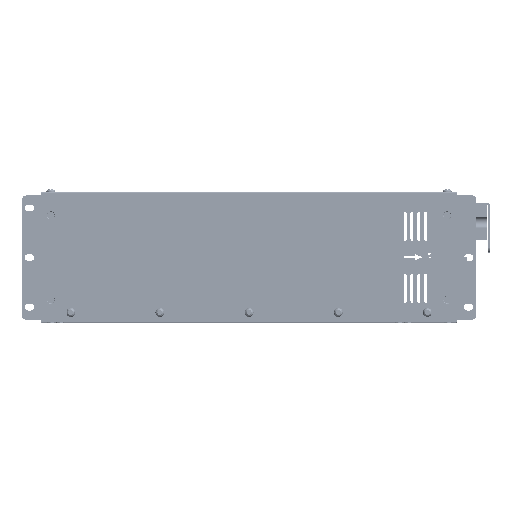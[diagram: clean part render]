
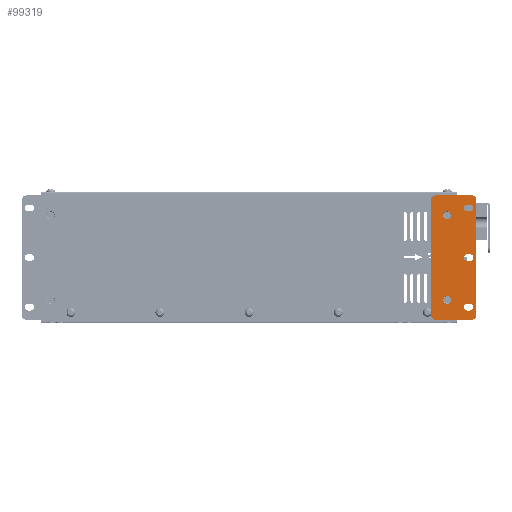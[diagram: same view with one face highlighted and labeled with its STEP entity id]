
A CAD part, top view. The second image highlights one B-rep face of the part: STEP entity #99319.
In plain terms, the highlighted planar face has unit normal (0, 0, 1) as drawn and (0, 1, 0) by its records, which use the part's own axes.
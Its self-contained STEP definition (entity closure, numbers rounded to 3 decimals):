
#5309=FACE_BOUND('',#21420,.T.);
#5310=FACE_BOUND('',#21421,.T.);
#5311=FACE_BOUND('',#21422,.T.);
#5312=FACE_BOUND('',#21423,.T.);
#5313=FACE_BOUND('',#21424,.T.);
#9914=PLANE('',#106781);
#15190=FACE_OUTER_BOUND('',#21419,.T.);
#21419=EDGE_LOOP('',(#92966,#92967,#92968,#92969,#92970,#92971,#92972,#92973));
#21420=EDGE_LOOP('',(#92974));
#21421=EDGE_LOOP('',(#92975));
#21422=EDGE_LOOP('',(#92976,#92977,#92978,#92979));
#21423=EDGE_LOOP('',(#92980,#92981,#92982,#92983));
#21424=EDGE_LOOP('',(#92984,#92985,#92986,#92987));
#30709=LINE('',#183022,#40037);
#30713=LINE('',#183033,#40041);
#30717=LINE('',#183046,#40045);
#30721=LINE('',#183057,#40049);
#30725=LINE('',#183070,#40053);
#30729=LINE('',#183081,#40057);
#30733=LINE('',#183094,#40061);
#30737=LINE('',#183106,#40065);
#30741=LINE('',#183118,#40069);
#30745=LINE('',#183129,#40073);
#40037=VECTOR('',#128862,10.);
#40041=VECTOR('',#128874,10.);
#40045=VECTOR('',#128886,10.);
#40049=VECTOR('',#128898,10.);
#40053=VECTOR('',#128910,10.);
#40057=VECTOR('',#128922,10.);
#40061=VECTOR('',#128934,10.);
#40065=VECTOR('',#128946,10.);
#40069=VECTOR('',#128958,10.);
#40073=VECTOR('',#128970,10.);
#42166=CIRCLE('',#106730,4.);
#42169=CIRCLE('',#106734,4.);
#42174=CIRCLE('',#106742,3.3);
#42176=CIRCLE('',#106746,3.3);
#42178=CIRCLE('',#106750,3.3);
#42180=CIRCLE('',#106754,3.3);
#42182=CIRCLE('',#106758,3.3);
#42184=CIRCLE('',#106762,3.3);
#42186=CIRCLE('',#106766,4.);
#42188=CIRCLE('',#106770,4.);
#42190=CIRCLE('',#106774,4.);
#42192=CIRCLE('',#106778,4.);
#51277=VERTEX_POINT('',#182988);
#51280=VERTEX_POINT('',#182996);
#51285=VERTEX_POINT('',#183012);
#51286=VERTEX_POINT('',#183013);
#51289=VERTEX_POINT('',#183021);
#51291=VERTEX_POINT('',#183027);
#51293=VERTEX_POINT('',#183036);
#51294=VERTEX_POINT('',#183037);
#51297=VERTEX_POINT('',#183045);
#51299=VERTEX_POINT('',#183051);
#51301=VERTEX_POINT('',#183060);
#51302=VERTEX_POINT('',#183061);
#51305=VERTEX_POINT('',#183069);
#51307=VERTEX_POINT('',#183075);
#51309=VERTEX_POINT('',#183084);
#51310=VERTEX_POINT('',#183085);
#51313=VERTEX_POINT('',#183093);
#51315=VERTEX_POINT('',#183099);
#51317=VERTEX_POINT('',#183105);
#51319=VERTEX_POINT('',#183111);
#51321=VERTEX_POINT('',#183117);
#51323=VERTEX_POINT('',#183123);
#65154=EDGE_CURVE('',#51277,#51277,#42166,.T.);
#65158=EDGE_CURVE('',#51280,#51280,#42169,.T.);
#65166=EDGE_CURVE('',#51285,#51286,#42174,.T.);
#65170=EDGE_CURVE('',#51286,#51289,#30709,.T.);
#65173=EDGE_CURVE('',#51289,#51291,#42176,.T.);
#65176=EDGE_CURVE('',#51291,#51285,#30713,.T.);
#65178=EDGE_CURVE('',#51293,#51294,#42178,.T.);
#65182=EDGE_CURVE('',#51294,#51297,#30717,.T.);
#65185=EDGE_CURVE('',#51297,#51299,#42180,.T.);
#65188=EDGE_CURVE('',#51299,#51293,#30721,.T.);
#65190=EDGE_CURVE('',#51301,#51302,#42182,.T.);
#65194=EDGE_CURVE('',#51302,#51305,#30725,.T.);
#65197=EDGE_CURVE('',#51305,#51307,#42184,.T.);
#65200=EDGE_CURVE('',#51307,#51301,#30729,.T.);
#65202=EDGE_CURVE('',#51309,#51310,#42186,.T.);
#65206=EDGE_CURVE('',#51310,#51313,#30733,.T.);
#65209=EDGE_CURVE('',#51313,#51315,#42188,.T.);
#65212=EDGE_CURVE('',#51315,#51317,#30737,.T.);
#65215=EDGE_CURVE('',#51317,#51319,#42190,.T.);
#65218=EDGE_CURVE('',#51319,#51321,#30741,.T.);
#65221=EDGE_CURVE('',#51321,#51323,#42192,.T.);
#65224=EDGE_CURVE('',#51323,#51309,#30745,.T.);
#92966=ORIENTED_EDGE('',*,*,#65224,.T.);
#92967=ORIENTED_EDGE('',*,*,#65202,.T.);
#92968=ORIENTED_EDGE('',*,*,#65206,.T.);
#92969=ORIENTED_EDGE('',*,*,#65209,.T.);
#92970=ORIENTED_EDGE('',*,*,#65212,.T.);
#92971=ORIENTED_EDGE('',*,*,#65215,.T.);
#92972=ORIENTED_EDGE('',*,*,#65218,.T.);
#92973=ORIENTED_EDGE('',*,*,#65221,.T.);
#92974=ORIENTED_EDGE('',*,*,#65154,.T.);
#92975=ORIENTED_EDGE('',*,*,#65158,.T.);
#92976=ORIENTED_EDGE('',*,*,#65200,.T.);
#92977=ORIENTED_EDGE('',*,*,#65190,.T.);
#92978=ORIENTED_EDGE('',*,*,#65194,.T.);
#92979=ORIENTED_EDGE('',*,*,#65197,.T.);
#92980=ORIENTED_EDGE('',*,*,#65188,.T.);
#92981=ORIENTED_EDGE('',*,*,#65178,.T.);
#92982=ORIENTED_EDGE('',*,*,#65182,.T.);
#92983=ORIENTED_EDGE('',*,*,#65185,.T.);
#92984=ORIENTED_EDGE('',*,*,#65176,.T.);
#92985=ORIENTED_EDGE('',*,*,#65166,.T.);
#92986=ORIENTED_EDGE('',*,*,#65170,.T.);
#92987=ORIENTED_EDGE('',*,*,#65173,.T.);
#99319=ADVANCED_FACE('',(#15190,#5309,#5310,#5311,#5312,#5313),#9914,.T.);
#106730=AXIS2_PLACEMENT_3D('',#182989,#128826,#128827);
#106734=AXIS2_PLACEMENT_3D('',#182997,#128835,#128836);
#106742=AXIS2_PLACEMENT_3D('',#183014,#128854,#128855);
#106746=AXIS2_PLACEMENT_3D('',#183028,#128867,#128868);
#106750=AXIS2_PLACEMENT_3D('',#183038,#128878,#128879);
#106754=AXIS2_PLACEMENT_3D('',#183052,#128891,#128892);
#106758=AXIS2_PLACEMENT_3D('',#183062,#128902,#128903);
#106762=AXIS2_PLACEMENT_3D('',#183076,#128915,#128916);
#106766=AXIS2_PLACEMENT_3D('',#183086,#128926,#128927);
#106770=AXIS2_PLACEMENT_3D('',#183100,#128939,#128940);
#106774=AXIS2_PLACEMENT_3D('',#183112,#128951,#128952);
#106778=AXIS2_PLACEMENT_3D('',#183124,#128963,#128964);
#106781=AXIS2_PLACEMENT_3D('',#183131,#128972,#128973);
#128826=DIRECTION('center_axis',(0.,-1.,0.));
#128827=DIRECTION('ref_axis',(-1.,0.,0.));
#128835=DIRECTION('center_axis',(0.,-1.,0.));
#128836=DIRECTION('ref_axis',(-1.,0.,0.));
#128854=DIRECTION('center_axis',(0.,-1.,0.));
#128855=DIRECTION('ref_axis',(0.,0.,-1.));
#128862=DIRECTION('',(-1.,0.,0.));
#128867=DIRECTION('center_axis',(0.,-1.,0.));
#128868=DIRECTION('ref_axis',(0.,0.,1.));
#128874=DIRECTION('',(1.,0.,0.));
#128878=DIRECTION('center_axis',(0.,-1.,0.));
#128879=DIRECTION('ref_axis',(0.,0.,-1.));
#128886=DIRECTION('',(-1.,0.,0.));
#128891=DIRECTION('center_axis',(0.,-1.,0.));
#128892=DIRECTION('ref_axis',(0.,0.,1.));
#128898=DIRECTION('',(1.,0.,0.));
#128902=DIRECTION('center_axis',(0.,-1.,0.));
#128903=DIRECTION('ref_axis',(0.,0.,-1.));
#128910=DIRECTION('',(-1.,0.,0.));
#128915=DIRECTION('center_axis',(0.,-1.,0.));
#128916=DIRECTION('ref_axis',(0.,0.,1.));
#128922=DIRECTION('',(1.,0.,0.));
#128926=DIRECTION('center_axis',(0.,1.,0.));
#128927=DIRECTION('ref_axis',(0.,0.,-1.));
#128934=DIRECTION('',(0.,0.,1.));
#128939=DIRECTION('center_axis',(0.,1.,0.));
#128940=DIRECTION('ref_axis',(-1.,0.,0.));
#128946=DIRECTION('',(1.,0.,0.));
#128951=DIRECTION('center_axis',(0.,1.,0.));
#128952=DIRECTION('ref_axis',(0.,0.,1.));
#128958=DIRECTION('',(0.,0.,-1.));
#128963=DIRECTION('center_axis',(0.,1.,0.));
#128964=DIRECTION('ref_axis',(1.,0.,0.));
#128970=DIRECTION('',(-1.,0.,0.));
#128972=DIRECTION('center_axis',(0.,1.,0.));
#128973=DIRECTION('ref_axis',(0.,0.,1.));
#182988=CARTESIAN_POINT('',(-25.041,0.,19.938));
#182989=CARTESIAN_POINT('Origin',(-29.041,0.,19.938));
#182996=CARTESIAN_POINT('',(-25.041,0.,104.938));
#182997=CARTESIAN_POINT('Origin',(-29.041,0.,104.938));
#183012=CARTESIAN_POINT('',(-6.041,0.,9.138));
#183013=CARTESIAN_POINT('',(-6.041,0.,15.738));
#183014=CARTESIAN_POINT('Origin',(-6.041,0.,12.438));
#183021=CARTESIAN_POINT('',(-9.041,0.,15.738));
#183022=CARTESIAN_POINT('',(-6.041,0.,15.738));
#183027=CARTESIAN_POINT('',(-9.041,0.,9.138));
#183028=CARTESIAN_POINT('Origin',(-9.041,0.,12.438));
#183033=CARTESIAN_POINT('',(-9.041,0.,9.138));
#183036=CARTESIAN_POINT('',(-6.041,0.,59.138));
#183037=CARTESIAN_POINT('',(-6.041,0.,65.738));
#183038=CARTESIAN_POINT('Origin',(-6.041,0.,62.438));
#183045=CARTESIAN_POINT('',(-9.041,0.,65.738));
#183046=CARTESIAN_POINT('',(-6.041,0.,65.738));
#183051=CARTESIAN_POINT('',(-9.041,0.,59.138));
#183052=CARTESIAN_POINT('Origin',(-9.041,0.,62.438));
#183057=CARTESIAN_POINT('',(-9.041,0.,59.138));
#183060=CARTESIAN_POINT('',(-6.041,0.,109.138));
#183061=CARTESIAN_POINT('',(-6.041,0.,115.738));
#183062=CARTESIAN_POINT('Origin',(-6.041,0.,112.438));
#183069=CARTESIAN_POINT('',(-9.041,0.,115.738));
#183070=CARTESIAN_POINT('',(-6.041,0.,115.738));
#183075=CARTESIAN_POINT('',(-9.041,0.,109.138));
#183076=CARTESIAN_POINT('Origin',(-9.041,0.,112.438));
#183081=CARTESIAN_POINT('',(-9.041,0.,109.138));
#183084=CARTESIAN_POINT('',(-41.041,0.,-0.062));
#183085=CARTESIAN_POINT('',(-45.041,0.,3.938));
#183086=CARTESIAN_POINT('Origin',(-41.041,0.,3.938));
#183093=CARTESIAN_POINT('',(-45.041,0.,120.938));
#183094=CARTESIAN_POINT('',(-45.041,0.,3.938));
#183099=CARTESIAN_POINT('',(-41.041,0.,124.938));
#183100=CARTESIAN_POINT('Origin',(-41.041,0.,120.938));
#183105=CARTESIAN_POINT('',(-4.041,0.,124.938));
#183106=CARTESIAN_POINT('',(-41.041,0.,124.938));
#183111=CARTESIAN_POINT('',(-0.041,0.,120.938));
#183112=CARTESIAN_POINT('Origin',(-4.041,0.,120.938));
#183117=CARTESIAN_POINT('',(-0.041,0.,3.938));
#183118=CARTESIAN_POINT('',(-0.041,0.,120.938));
#183123=CARTESIAN_POINT('',(-4.041,0.,-0.062));
#183124=CARTESIAN_POINT('Origin',(-4.041,0.,3.938));
#183129=CARTESIAN_POINT('',(-4.041,0.,-0.062));
#183131=CARTESIAN_POINT('Origin',(-22.541,0.,62.438));
